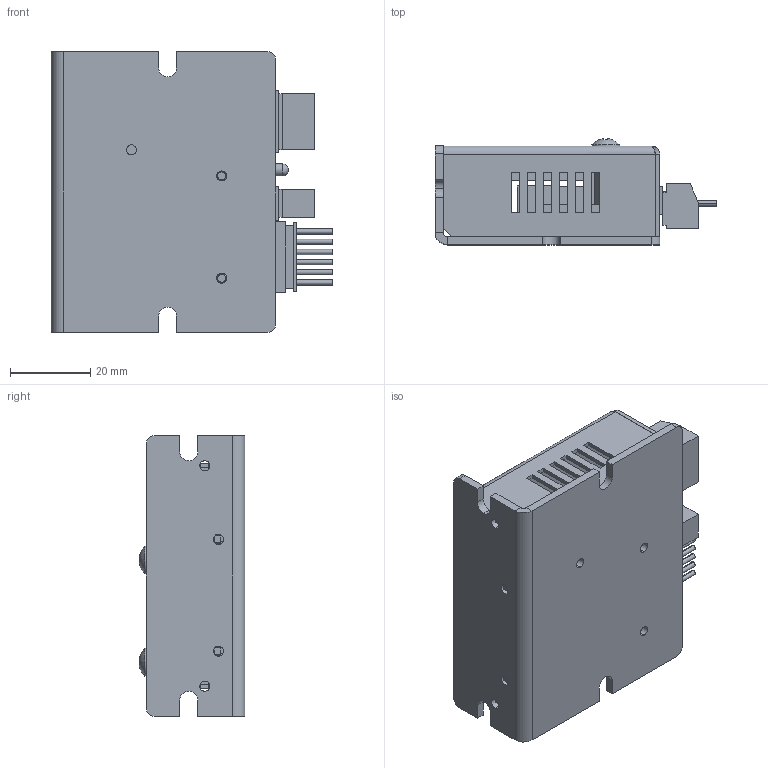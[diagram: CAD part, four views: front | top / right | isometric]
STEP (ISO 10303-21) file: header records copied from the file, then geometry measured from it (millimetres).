
FILE_DESCRIPTION (( 'STEP AP214' ), '1' );
FILE_NAME ('EXD2022MB.STEP', '2016-09-05T06:06:46', ( 'hoho' ), ( '' ), 'SwSTEP 2.0', 'SolidWorks 2013', '' );
FILE_SCHEMA (( 'AUTOMOTIVE_DESIGN' ));
Length unit declared in the file: millimetre
Products named in the file (1): EXD2022MB
Bounding box: 70.2 x 26.4 x 70 mm (x, y, z)
Volume: 28508.5 mm3; surface area: 38534.4 mm2
Topology: 21 solids, 22 shells, 1483 faces, 3769 edges, 2485 vertices
Faces by surface type: plane 1034, bspline 270, cylinder 121, cone 52, sphere 4, torus 2
Entity records: 76089 total; most frequent: CARTESIAN_POINT 25301, ORIENTED_EDGE 7530, DIRECTION 5920, EDGE_CURVE 3765, LINE 2832, VECTOR 2832, VERTEX_POINT 2485, EDGE_LOOP 1684
